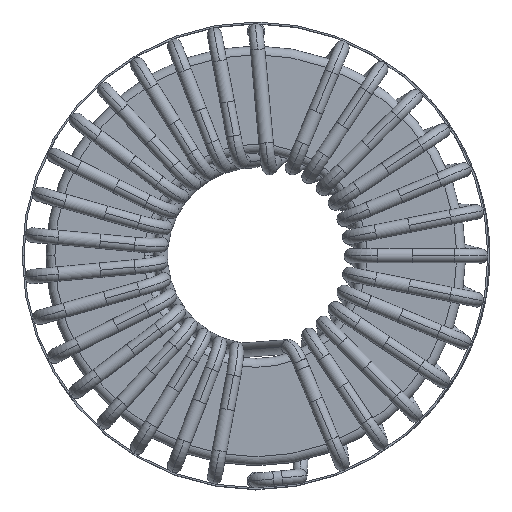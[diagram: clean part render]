
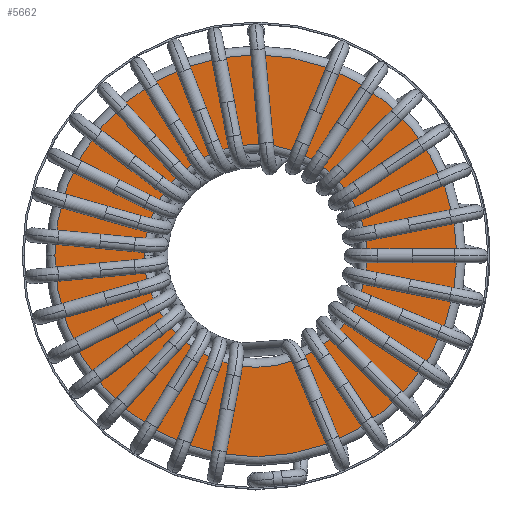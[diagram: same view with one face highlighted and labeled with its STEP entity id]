
A CAD part, top view. The second image highlights one B-rep face of the part: STEP entity #5662.
In plain terms, the highlighted planar face has unit normal (0, 0, 1).
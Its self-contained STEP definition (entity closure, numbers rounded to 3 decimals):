
#964 = DIRECTION ( 'NONE',  ( 0., 0., -1. ) ) ;
#1006 = CIRCLE ( 'NONE', #15975, 22.8 ) ;
#1178 = VERTEX_POINT ( 'NONE', #42435 ) ;
#1686 = CIRCLE ( 'NONE', #5368, 22.8 ) ;
#1956 = CARTESIAN_POINT ( 'NONE',  ( 0., 0., 9.45 ) ) ;
#5328 = DIRECTION ( 'NONE',  ( 1., 0., 0. ) ) ;
#5368 = AXIS2_PLACEMENT_3D ( 'NONE', #6120, #28711, #29144 ) ;
#5662 = ADVANCED_FACE ( 'NONE', ( #31753, #22508 ), #19457, .T. ) ;
#6120 = CARTESIAN_POINT ( 'NONE',  ( 0., 0., 9.45 ) ) ;
#6356 = CARTESIAN_POINT ( 'NONE',  ( 0., 0., 9.45 ) ) ;
#6497 = DIRECTION ( 'NONE',  ( 1., 0., 0. ) ) ;
#6918 = CIRCLE ( 'NONE', #17113, 12.65 ) ;
#7799 = EDGE_LOOP ( 'NONE', ( #14545, #16253 ) ) ;
#9604 = AXIS2_PLACEMENT_3D ( 'NONE', #6356, #25938, #6497 ) ;
#14121 = CARTESIAN_POINT ( 'NONE',  ( 0., 0., 9.45 ) ) ;
#14545 = ORIENTED_EDGE ( 'NONE', *, *, #42687, .T. ) ;
#15975 = AXIS2_PLACEMENT_3D ( 'NONE', #1956, #25063, #5328 ) ;
#16253 = ORIENTED_EDGE ( 'NONE', *, *, #33595, .T. ) ;
#17009 = DIRECTION ( 'NONE',  ( 1., 0., 0. ) ) ;
#17113 = AXIS2_PLACEMENT_3D ( 'NONE', #14121, #964, #17009 ) ;
#17688 = CARTESIAN_POINT ( 'NONE',  ( 12.65, 0., 9.45 ) ) ;
#19375 = EDGE_CURVE ( 'NONE', #1178, #25873, #6918, .T. ) ;
#19457 = PLANE ( 'NONE',  #9604 ) ;
#20934 = CARTESIAN_POINT ( 'NONE',  ( 0., 0., 9.45 ) ) ;
#21392 = AXIS2_PLACEMENT_3D ( 'NONE', #20934, #24215, #37518 ) ;
#22508 = FACE_OUTER_BOUND ( 'NONE', #7799, .T. ) ;
#23750 = ORIENTED_EDGE ( 'NONE', *, *, #40211, .T. ) ;
#23887 = CIRCLE ( 'NONE', #21392, 12.65 ) ;
#24215 = DIRECTION ( 'NONE',  ( 0., 0., -1. ) ) ;
#25063 = DIRECTION ( 'NONE',  ( 0., 0., 1. ) ) ;
#25873 = VERTEX_POINT ( 'NONE', #17688 ) ;
#25938 = DIRECTION ( 'NONE',  ( 0., 0., 1. ) ) ;
#28434 = CARTESIAN_POINT ( 'NONE',  ( -22.8, 0., 9.45 ) ) ;
#28711 = DIRECTION ( 'NONE',  ( 0., 0., 1. ) ) ;
#29144 = DIRECTION ( 'NONE',  ( 1., 0., 0. ) ) ;
#30893 = ORIENTED_EDGE ( 'NONE', *, *, #19375, .T. ) ;
#31753 = FACE_BOUND ( 'NONE', #41756, .T. ) ;
#33595 = EDGE_CURVE ( 'NONE', #42193, #35042, #1686, .T. ) ;
#35042 = VERTEX_POINT ( 'NONE', #36303 ) ;
#36303 = CARTESIAN_POINT ( 'NONE',  ( 22.8, 0., 9.45 ) ) ;
#37518 = DIRECTION ( 'NONE',  ( 1., 0., 0. ) ) ;
#40211 = EDGE_CURVE ( 'NONE', #25873, #1178, #23887, .T. ) ;
#41756 = EDGE_LOOP ( 'NONE', ( #23750, #30893 ) ) ;
#42193 = VERTEX_POINT ( 'NONE', #28434 ) ;
#42435 = CARTESIAN_POINT ( 'NONE',  ( -12.65, 0., 9.45 ) ) ;
#42687 = EDGE_CURVE ( 'NONE', #35042, #42193, #1006, .T. ) ;
